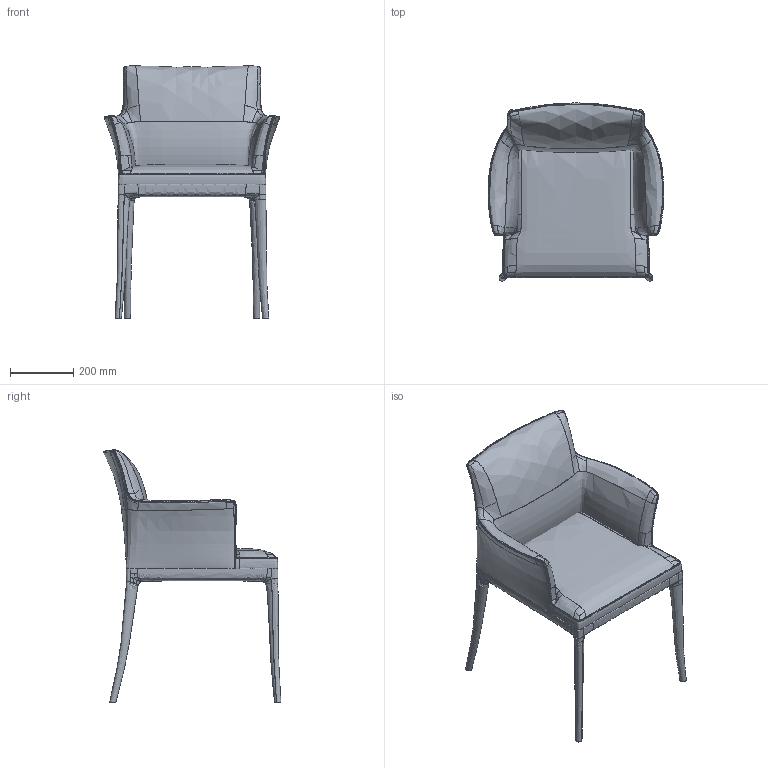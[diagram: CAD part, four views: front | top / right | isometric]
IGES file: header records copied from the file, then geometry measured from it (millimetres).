
Global section: file name: K:\Marketing\marketing\2D-3D PRODOTTI\2026_NUOVI PRODOTTI\Lillybet\Lillybet con bracciolo\Lillybet con bracciolo.igs; native system: Rhinoceros ( Jun  9 2026 ); preprocessor: Trout Lake IGES 012 Jun  9 2026; date: 260825.122228; units: millimetre
Bounding box: 555.61 x 562.41 x 798.64 mm (x, y, z)
Surface area: 1605574.2 mm2 (no closed solid volume)
Topology: 0 solids, 0 shells, 213 faces, 1151 edges, 1147 vertices
Faces by surface type: bspline 213
